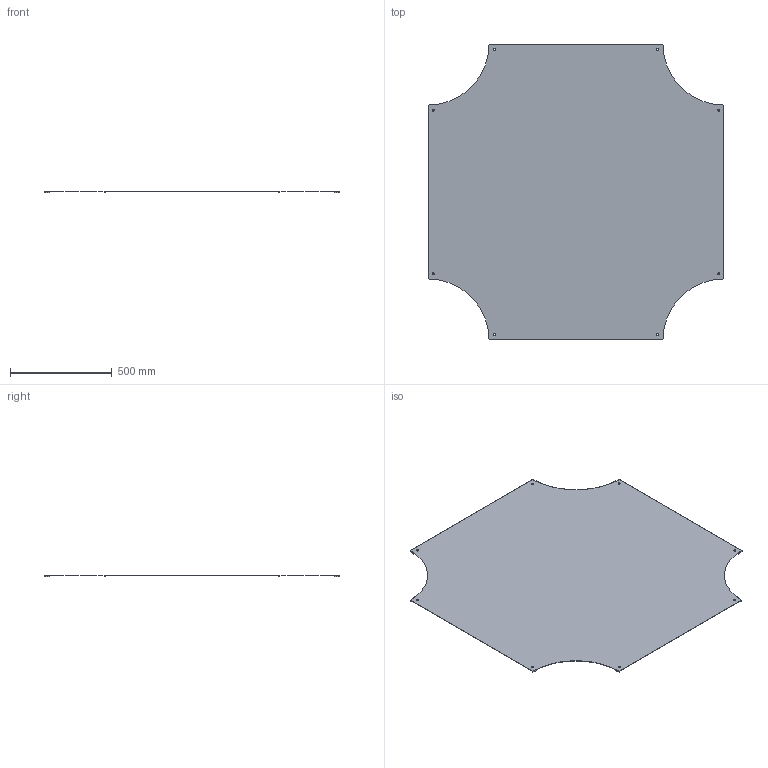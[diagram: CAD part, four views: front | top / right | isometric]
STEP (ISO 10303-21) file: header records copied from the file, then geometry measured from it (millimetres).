
FILE_DESCRIPTION(/* description */ ('','CAx-IF Rec.Pracs.---Representation and Presentation of Product Manufacturing Information (PMI)---4.0---2014-10-13'),/* implementation_level */ '2;1');
FILE_NAME(/* name */ 'Eurostrut_ECOC800-300_Cover Crossover for Cable Ladder ECL.step',/* time_stamp */ '2026-09-10T10:50:25+02:00',/* author */ (''),/* organization */ (''),/* preprocessor_version */ 'ST-DEVELOPER v20.1',/* originating_system */ 'Autodesk Revit 2027 27.2.0.39',/* authorisation */ '');
FILE_SCHEMA (('AP242_MANAGED_MODEL_BASED_3D_ENGINEERING_MIM_LF { 1 0 10303 442 2 1 4 }'));
Length unit declared in the file: millimetre
Products named in the file (6): TopLevelAssembly; Joined Solid Geometry; Joined Solid Geometry_1; Joined Solid Geometry_2; Joined Solid Geometry_3; Joined Solid Geometry_4
Assembly tree (5 placements, depth 2):
  TopLevelAssembly
    Joined Solid Geometry
    Joined Solid Geometry_1
    Joined Solid Geometry_2
    Joined Solid Geometry_3
    Joined Solid Geometry_4
Bounding box: 1450 x 1450 x 9 mm (x, y, z)
Volume: 2735175.7 mm3; surface area: 3655990.2 mm2
Topology: 9 solids, 9 shells, 74 faces, 168 edges, 112 vertices
Faces by surface type: plane 38, cylinder 36
Entity records: 2242 total; most frequent: DIRECTION 410, CARTESIAN_POINT 365, ORIENTED_EDGE 336, EDGE_CURVE 168, AXIS2_PLACEMENT_3D 157, VERTEX_POINT 112, LINE 96, VECTOR 96
